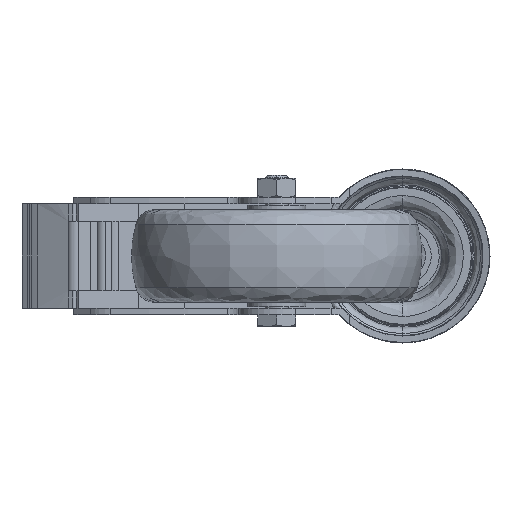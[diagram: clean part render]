
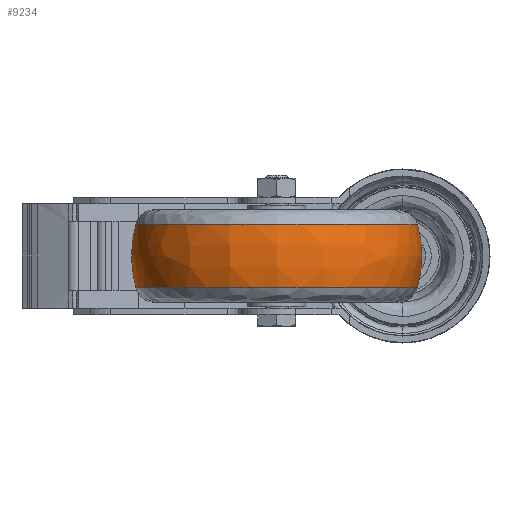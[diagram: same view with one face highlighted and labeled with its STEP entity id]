
A CAD part, front view. The second image highlights one B-rep face of the part: STEP entity #9234.
In plain terms, the highlighted free-form (B-spline) face has degree [3, 3] with [4, 4] control points.
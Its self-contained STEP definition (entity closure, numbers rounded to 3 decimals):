
#27 = CARTESIAN_POINT ( 'NONE',  ( -94.019, -186.037, 3.731 ) ) ;
#157 = ORIENTED_EDGE ( 'NONE', *, *, #2785, .F. ) ;
#172 = CARTESIAN_POINT ( 'NONE',  ( 4.984, -85., -10.909 ) ) ;
#1244 = VERTEX_POINT ( 'NONE', #2389 ) ;
#1368 = CARTESIAN_POINT ( 'NONE',  ( -43.5, -85., -10.909 ) ) ;
#1591 = CARTESIAN_POINT ( 'NONE',  ( -53.5, -85., 0. ) ) ;
#2155 =( BOUNDED_SURFACE ( )  B_SPLINE_SURFACE ( 3, 3, ( 
 ( #7754, #11138, #10291, #2573 ),
 ( #6060, #27, #3476, #6911 ),
 ( #10571, #5327, #4600, #9659 ),
 ( #6225, #7071, #9605, #3701 ) ),
 .UNSPECIFIED., .F., .F., .F. ) 
 B_SPLINE_SURFACE_WITH_KNOTS ( ( 4, 4 ),
 ( 4, 4 ),
 ( 0., 1. ),
 ( 0., 1. ),
 .UNSPECIFIED. ) 
 GEOMETRIC_REPRESENTATION_ITEM ( )  RATIONAL_B_SPLINE_SURFACE ( (
 ( 1., 0.333, 0.333, 1.),
 ( 0.975, 0.325, 0.325, 0.975),
 ( 0.975, 0.325, 0.325, 0.975),
 ( 1., 0.333, 0.333, 1.) ) ) 
 REPRESENTATION_ITEM ( '' )  SURFACE ( )  );
#2188 = EDGE_CURVE ( 'NONE', #1244, #3726, #2874, .T. ) ;
#2244 = DIRECTION ( 'NONE',  ( 0., 1., 0. ) ) ;
#2389 = CARTESIAN_POINT ( 'NONE',  ( 4.984, -85., 10.909 ) ) ;
#2573 = CARTESIAN_POINT ( 'NONE',  ( 4.984, -85., 10.909 ) ) ;
#2785 = EDGE_CURVE ( 'NONE', #1244, #6443, #5228, .T. ) ;
#2874 = CIRCLE ( 'NONE', #3056, 48.484 ) ;
#3056 = AXIS2_PLACEMENT_3D ( 'NONE', #7682, #6048, #5101 ) ;
#3476 = CARTESIAN_POINT ( 'NONE',  ( 7.019, -186.037, 3.731 ) ) ;
#3701 = CARTESIAN_POINT ( 'NONE',  ( 4.984, -85., -10.909 ) ) ;
#3726 = VERTEX_POINT ( 'NONE', #10931 ) ;
#4270 = EDGE_CURVE ( 'NONE', #7288, #6443, #4326, .T. ) ;
#4326 = CIRCLE ( 'NONE', #4507, 48.484 ) ;
#4507 = AXIS2_PLACEMENT_3D ( 'NONE', #1368, #4825, #6621 ) ;
#4600 = CARTESIAN_POINT ( 'NONE',  ( 7.019, -186.037, -3.731 ) ) ;
#4655 = ORIENTED_EDGE ( 'NONE', *, *, #2188, .T. ) ;
#4822 = AXIS2_PLACEMENT_3D ( 'NONE', #1591, #8480, #6675 ) ;
#4825 = DIRECTION ( 'NONE',  ( 0., 0., 1. ) ) ;
#5101 = DIRECTION ( 'NONE',  ( 1., 0., 0. ) ) ;
#5228 = CIRCLE ( 'NONE', #9183, 40. ) ;
#5310 = ORIENTED_EDGE ( 'NONE', *, *, #4270, .T. ) ;
#5327 = CARTESIAN_POINT ( 'NONE',  ( -94.019, -186.037, -3.731 ) ) ;
#6048 = DIRECTION ( 'NONE',  ( 0., 0., -1. ) ) ;
#6060 = CARTESIAN_POINT ( 'NONE',  ( -94.019, -85., 3.731 ) ) ;
#6225 = CARTESIAN_POINT ( 'NONE',  ( -91.984, -85., -10.909 ) ) ;
#6443 = VERTEX_POINT ( 'NONE', #172 ) ;
#6531 = CARTESIAN_POINT ( 'NONE',  ( -33.5, -85., 0. ) ) ;
#6621 = DIRECTION ( 'NONE',  ( 1., 0., 0. ) ) ;
#6675 = DIRECTION ( 'NONE',  ( -1., 0., 0. ) ) ;
#6911 = CARTESIAN_POINT ( 'NONE',  ( 7.019, -85., 3.731 ) ) ;
#7071 = CARTESIAN_POINT ( 'NONE',  ( -91.984, -181.967, -10.909 ) ) ;
#7228 = CARTESIAN_POINT ( 'NONE',  ( -91.984, -85., -10.909 ) ) ;
#7288 = VERTEX_POINT ( 'NONE', #7228 ) ;
#7682 = CARTESIAN_POINT ( 'NONE',  ( -43.5, -85., 10.909 ) ) ;
#7754 = CARTESIAN_POINT ( 'NONE',  ( -91.984, -85., 10.909 ) ) ;
#8060 = CIRCLE ( 'NONE', #4822, 40. ) ;
#8344 = ORIENTED_EDGE ( 'NONE', *, *, #9572, .T. ) ;
#8480 = DIRECTION ( 'NONE',  ( 0., -1., 0. ) ) ;
#8962 = DIRECTION ( 'NONE',  ( 1., 0., 0. ) ) ;
#9160 = EDGE_LOOP ( 'NONE', ( #4655, #8344, #5310, #157 ) ) ;
#9183 = AXIS2_PLACEMENT_3D ( 'NONE', #6531, #2244, #8962 ) ;
#9234 = ADVANCED_FACE ( 'NONE', ( #10347 ), #2155, .T. ) ;
#9572 = EDGE_CURVE ( 'NONE', #3726, #7288, #8060, .T. ) ;
#9605 = CARTESIAN_POINT ( 'NONE',  ( 4.984, -181.967, -10.909 ) ) ;
#9659 = CARTESIAN_POINT ( 'NONE',  ( 7.019, -85., -3.731 ) ) ;
#10291 = CARTESIAN_POINT ( 'NONE',  ( 4.984, -181.967, 10.909 ) ) ;
#10347 = FACE_OUTER_BOUND ( 'NONE', #9160, .T. ) ;
#10571 = CARTESIAN_POINT ( 'NONE',  ( -94.019, -85., -3.731 ) ) ;
#10931 = CARTESIAN_POINT ( 'NONE',  ( -91.984, -85., 10.909 ) ) ;
#11138 = CARTESIAN_POINT ( 'NONE',  ( -91.984, -181.967, 10.909 ) ) ;
